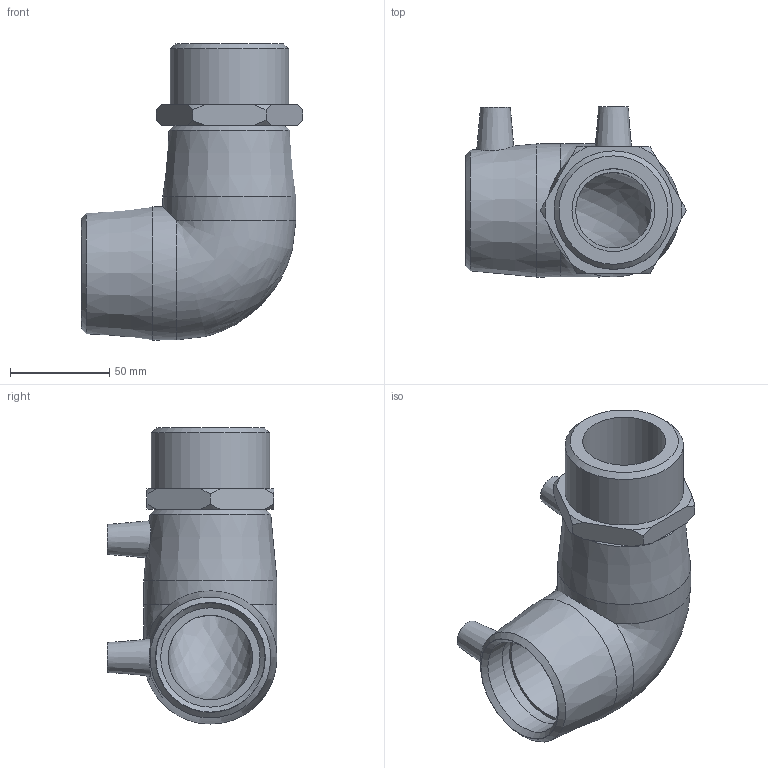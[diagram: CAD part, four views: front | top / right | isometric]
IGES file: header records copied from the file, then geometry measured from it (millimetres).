
Global section: file name: 492504050020.ipt; native system: Autodesk Inventor 2015; preprocessor: unknown; author: KIM; date: 20200202.122350; units: millimetre
Bounding box: 111.35 x 85.5 x 149 mm (x, y, z)
Volume: 324933.2 mm3; surface area: 71580.5 mm2
Topology: 1 solids, 2 shells, 59 faces, 143 edges, 96 vertices
Faces by surface type: plane 22, cone 19, revolution 10, cylinder 7, bspline 1
Full cylindrical faces by diameter (mm): 4 x2, 50 x2, 59.614 x1, 67 x2
